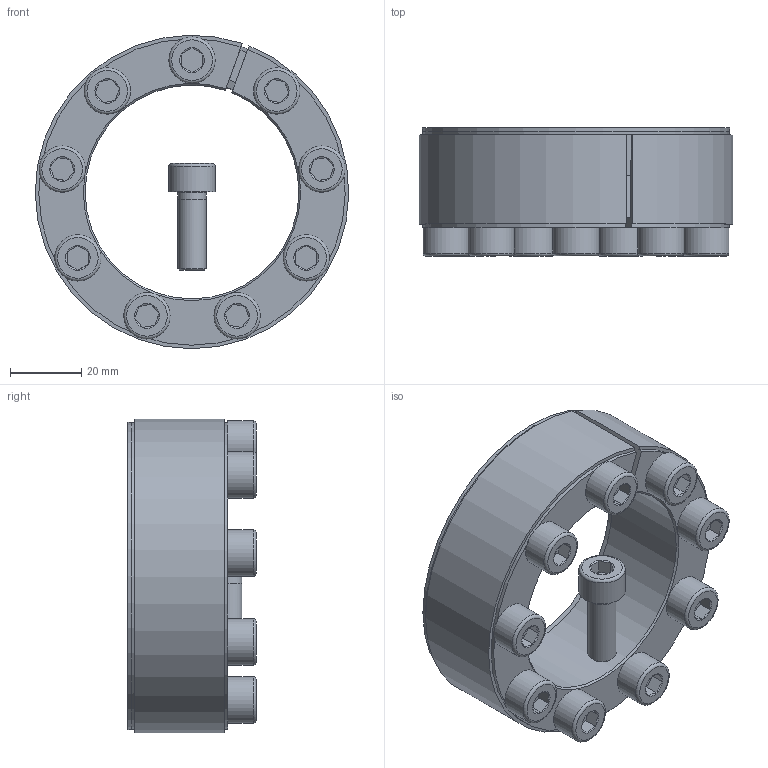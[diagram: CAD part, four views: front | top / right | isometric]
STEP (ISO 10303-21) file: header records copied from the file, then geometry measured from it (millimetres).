
FILE_DESCRIPTION( ( 'Unknown' ), '1' );
FILE_NAME( 'C:/Dokumente und Einstellungen/Sven/Desktop/homepage/cad - homepage/KBS52/KBS 52 - 60 x 88.stp', 'Unknown', ( 'Unknown' ), ( 'Unknown' ), 'XStep 1.0', 'Unknown', ' ' );
FILE_SCHEMA( ( 'automotive_design' ) );
Length unit declared in the file: millimetre
Products named in the file (3): Assem1; KBS 52 - 60 x 88; ISO EN DIN 4762 M8x22
Bounding box: 87.99 x 36 x 87.99 mm (x, y, z)
Volume: 174453.6 mm3; surface area: 62612.9 mm2
Topology: 12 solids, 12 shells, 308 faces, 606 edges, 360 vertices
Faces by surface type: plane 146, cone 76, cylinder 66, torus 20
Full cylindrical faces by diameter (mm): 7 x10, 8 x38, 13 x10, 86.175 x2
Entity records: 1789 total; most frequent: CARTESIAN_POINT 289, DIRECTION 271, ORIENTED_EDGE 200, AXIS2_PLACEMENT_3D 114, EDGE_CURVE 100, EDGE_LOOP 96, VERTEX_POINT 72, FACE_OUTER_BOUND 70
